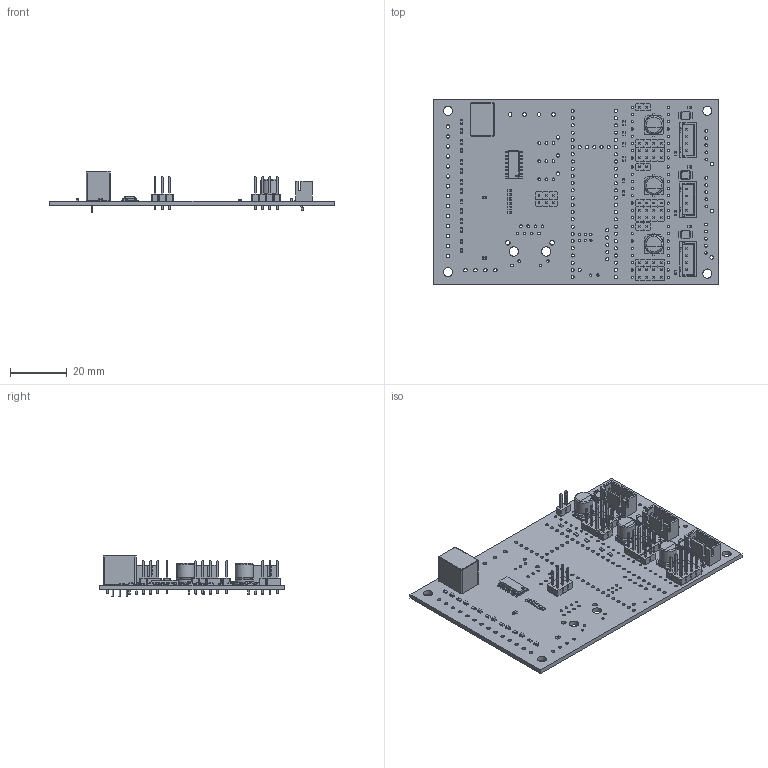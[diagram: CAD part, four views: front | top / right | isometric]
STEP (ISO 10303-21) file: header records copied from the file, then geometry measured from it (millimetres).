
FILE_DESCRIPTION(('KiCad electronic assembly'),'2;1');
FILE_NAME('teensy4_controller.step','2020-08-20T11:23:45',('An Author'), ('A Company'),'Open CASCADE STEP processor 6.9', 'KiCad to STEP converter','Unknown');
FILE_SCHEMA(('AUTOMOTIVE_DESIGN { 1 0 10303 214 1 1 1 1 }'));
Length unit declared in the file: millimetre
Products named in the file (26): Open CASCADE STEP translator 6.9 1; PinHeader_1x03_P2.54mm_Vertical; SOLID; PinHeader_2x04_P2.54mm_Vertical; C_0603_1608Metric; JST_XH_B4B-XH-A_1x04_P2.50mm_Vertical; VSSOP-8_3.0x3.0mm_P0.65mm; CP_Elec_6.3x7.7; SOIC-16_3.9x9.9mm_P1.27mm; R_0603_1608Metric; PinHeader_1x04_P2.54mm_Vertical; PinHeader_1x02_P2.54mm_Vertical; LED_0603_1608Metric; Converter_DCDC_RECOM_R-78E-0.5_THT; COMPOUND
Assembly tree (69 placements, depth 3):
  Open CASCADE STEP translator 6.9 1
    PinHeader_1x03_P2.54mm_Vertical  x2
      SOLID
    PinHeader_2x04_P2.54mm_Vertical  x3
      SOLID
    C_0603_1608Metric  x9
      SOLID
    JST_XH_B4B-XH-A_1x04_P2.50mm_Vertical  x3
      SOLID
    VSSOP-8_3.0x3.0mm_P0.65mm  x3
      SOLID
    CP_Elec_6.3x7.7  x3
      SOLID
    SOIC-16_3.9x9.9mm_P1.27mm
      SOLID
    R_0603_1608Metric  x18
      SOLID
    PinHeader_1x04_P2.54mm_Vertical  x3
      SOLID
    PinHeader_1x02_P2.54mm_Vertical  x3
      SOLID
    LED_0603_1608Metric  x7
      SOLID
    Converter_DCDC_RECOM_R-78E-0.5_THT
      SOLID
    COMPOUND
Bounding box: 100 x 65 x 14.5 mm (x, y, z)
Volume: 13567 mm3; surface area: 20495 mm2
Topology: 57 solids, 57 shells, 3767 faces, 9604 edges, 6106 vertices
Faces by surface type: plane 2828, cylinder 775, bspline 142, torus 19, revolution 3
Full cylindrical faces by diameter (mm): 0.25 x3, 0.5 x3, 0.6 x1, 0.8 x56, 0.89 x4, 0.9 x8, 0.95 x36, 1 x51, 1.1 x59, 1.2 x24, 1.3 x4, 1.6 x2, 3.2 x4, 3.25 x2, 6.3 x6
Entity records: 99993 total; most frequent: CARTESIAN_POINT 16492, DIRECTION 14139, LINE 9050, VECTOR 9050, ORIENTED_EDGE 7264, PCURVE 7264, DEFINITIONAL_REPRESENTATION 7264, EDGE_CURVE 3632
